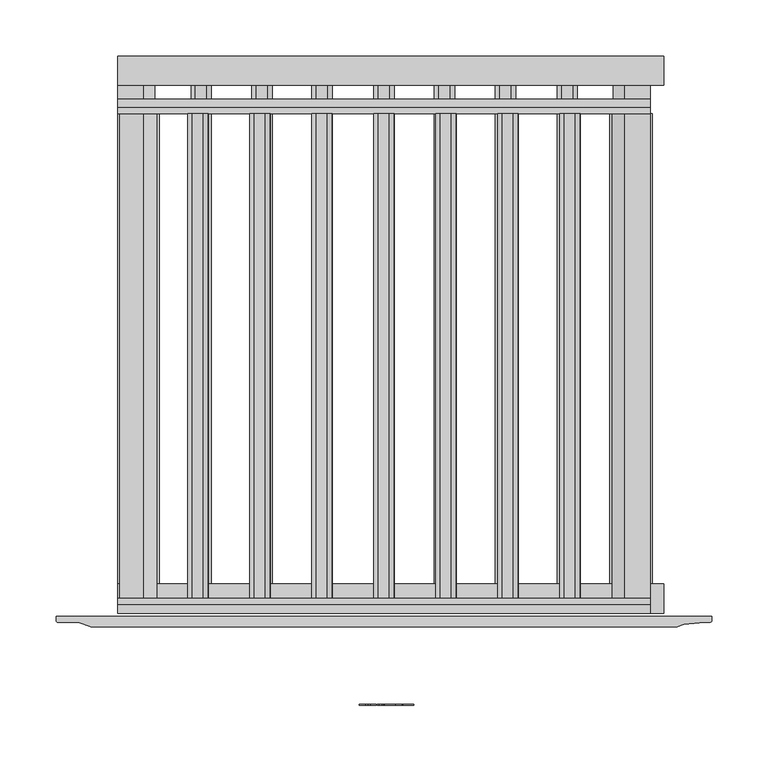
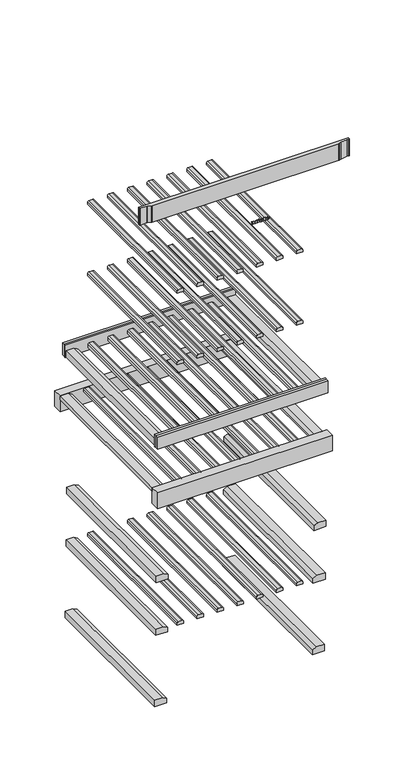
"""IFC4 building model written with IfcOpenShell, lengths in millimetres: proxy geometry, 12581040_CN_KWTS4785F_OBSW : 39478562_CN_12581040_KWTS4785F_OBSW."""

from ifc_helpers import new_model, si_unit, point, frame, frame_2d, origin, place, context, project, spatial, polyline, circle_curve, ellipse_curve, trimmed, segment, composite_curve, outline, extrude, source, transform, mapped, element, save
from ifc_brep_helpers import plane_surface, cylinder_surface, revolved_surface, extruded_surface, advanced_brep


def specialty_equipment_05008fe5(model_context):
    return source(origin(), model_context, "Body", "SolidModel", [
        advanced_brep(
        [(21.288016, -694.5, 1754.896), (21.288016, -694.5, 1755.704), (26.640016, -694.5, 1755.704), (17.328016, -694.5, 1755.704), (19.528016, -694.5, 1753.0), (26.504016, -694.5, 1754.896), (24.088016, -694.5, 1754.896), (22.184016, -694.5, 1754.0), (21.288016, -694.5, 1756.728), (21.288016, -694.5, 1757.6), (22.656016, -694.5, 1757.6), (22.656016, -694.5, 1756.728), (21.288016, -693.5, 1754.896), (22.184016, -693.5, 1754.0), (24.088016, -693.5, 1754.896), (26.504016, -693.5, 1754.896), (19.528016, -693.5, 1753.0), (17.328016, -693.5, 1755.704), (26.640016, -693.5, 1755.704), (21.288016, -693.5, 1755.704), (21.288016, -693.5, 1756.728), (22.656016, -693.5, 1756.728), (22.656016, -693.5, 1757.6), (21.288016, -693.5, 1757.6)],
        [
            (0, 1),
            (1, 2),
            (2, 3, ellipse_curve(frame((21.984016, -694.5, 1755.704), z_axis=(0.0, -1.0, 0.0), x_axis=(-1.0, 0.0, 0.0)), 4.656, 3.848)),
            (3, 4, circle_curve(frame((20.4240596, -694.5, 1755.976), z_axis=(0.0, -1.0, 0.0), x_axis=(0.0, 0.0, -1.0)), 3.1079688)),
            (4, 5, circle_curve(frame((21.8908096, -694.5, 1758.088), z_axis=(0.0, -1.0, 0.0), x_axis=(0.0, 0.0, -1.0)), 5.6098607)),
            (5, 6),
            (6, 7, circle_curve(frame((22.5750748, -694.5, 1755.64), z_axis=(0.0, 1.0, 0.0), x_axis=(0.0, 0.0, -1.0)), 1.6859795)),
            (7, 0, circle_curve(frame((22.184016, -694.5, 1754.896), z_axis=(0.0, 1.0, 0.0), x_axis=(0.0, 0.0, -1.0)), 0.896)),
            (8, 9),
            (9, 10, circle_curve(frame((21.972016, -694.5, 1757.6), z_axis=(0.0, 1.0, 0.0), x_axis=(0.0, 0.0, -1.0)), 0.684)),
            (10, 11),
            (11, 8),
            (12, 13, circle_curve(frame((22.184016, -693.5, 1754.896), z_axis=(0.0, -1.0, 0.0), x_axis=(0.0, 0.0, -1.0)), 0.896)),
            (13, 14, circle_curve(frame((22.5750748, -693.5, 1755.64), z_axis=(0.0, -1.0, 0.0), x_axis=(0.0, 0.0, -1.0)), 1.6859795)),
            (14, 15),
            (15, 16, circle_curve(frame((21.8908096, -693.5, 1758.088), z_axis=(0.0, 1.0, 0.0), x_axis=(0.0, 0.0, -1.0)), 5.6098607)),
            (16, 17, circle_curve(frame((20.4240596, -693.5, 1755.976), z_axis=(0.0, 1.0, 0.0), x_axis=(0.0, 0.0, -1.0)), 3.1079688)),
            (17, 18, ellipse_curve(frame((21.984016, -693.5, 1755.704), z_axis=(0.0, 1.0, 0.0), x_axis=(-1.0, 0.0, 0.0)), 4.656, 3.848)),
            (18, 19),
            (19, 12),
            (20, 21),
            (21, 22),
            (22, 23, circle_curve(frame((21.972016, -693.5, 1757.6), z_axis=(0.0, -1.0, 0.0), x_axis=(0.0, 0.0, -1.0)), 0.684)),
            (23, 20),
            (0, 12),
            (19, 1),
            (18, 2),
            (5, 15),
            (14, 6),
            (17, 3),
            (13, 7),
            (16, 4),
            (8, 20),
            (23, 9),
            (22, 10),
            (21, 11),
        ],
        [
            plane_surface(frame((21.288016, -694.5, 1755.704), z_axis=(0.0, -1.0, 0.0), x_axis=(0.0, 0.0, 1.0))),
            plane_surface(frame((21.288016, -693.5, 1755.704), z_axis=(0.0, 1.0, 0.0), x_axis=(0.0, 0.0, -1.0))),
            plane_surface(frame((21.288016, -694.5, 1754.896), z_axis=(1.0, 0.0, 0.0), x_axis=(0.0, 1.0, 0.0))),
            plane_surface(frame((21.288016, -694.5, 1755.704), z_axis=(0.0, 0.0, -1.0), x_axis=(0.0, 1.0, 0.0))),
            plane_surface(frame((26.504016, -694.5, 1754.896), z_axis=(0.0, 0.0, 1.0), x_axis=(0.0, 1.0, 0.0))),
            extruded_surface(trimmed(ellipse_curve(frame((21.984016, -692.5, 1755.704), z_axis=(0.0, -1.0, 0.0), x_axis=(-1.0, 0.0, 0.0)), 4.656, 3.848), [point((26.640016, -692.5, 1755.704))], [point((17.328016, -692.5, 1755.704))], True, "CARTESIAN"), (0.0, -1.0, 0.0), 1.0),
            revolved_surface(polyline([(22.5750748, -693.5, 1753.9540205), (22.5750748, -694.5, 1753.9540205)]), (22.5750748, -693.5, 1755.64), (0.0, 1.0, 0.0)),
            revolved_surface(polyline([(22.184016, -693.5, 1754.0), (22.184016, -694.5, 1754.0)]), (22.184016, -693.5, 1754.896), (0.0, 1.0, 0.0)),
            cylinder_surface(frame((20.4240596, -693.5, 1755.976), z_axis=(0.0, -1.0, 0.0), x_axis=(0.0, 0.0, -1.0)), 3.1079688),
            cylinder_surface(frame((21.8908096, -693.5, 1758.088), z_axis=(0.0, -1.0, 0.0), x_axis=(0.0, 0.0, -1.0)), 5.6098607),
            plane_surface(frame((21.288016, -694.5, 1756.728), z_axis=(1.0, 0.0, 0.0), x_axis=(0.0, 1.0, 0.0))),
            revolved_surface(polyline([(21.972016, -693.5, 1756.916), (21.972016, -694.5, 1756.916)]), (21.972016, -693.5, 1757.6), (0.0, 1.0, 0.0)),
            plane_surface(frame((22.656016, -694.5, 1757.6), z_axis=(-1.0, 0.0, 0.0), x_axis=(0.0, 1.0, 0.0))),
            plane_surface(frame((22.656016, -694.5, 1756.728), z_axis=(0.0, 0.0, 1.0), x_axis=(0.0, 1.0, 0.0))),
        ],
        [
            (0, [[1, 2, 3, 4, 5, 6, 7, 8], [9, 10, 11, 12]]),
            (1, [[13, 14, 15, 16, 17, 18, 19, 20], [21, 22, 23, 24]]),
            (2, [[-1, 25, -20, 26]]),
            (3, [[-2, -26, -19, 27]]),
            (4, [[-6, 28, -15, 29]]),
            (5, [[-3, -27, -18, 30]]),
            (6, [[-7, -29, -14, 31]]),
            (7, [[-8, -31, -13, -25]]),
            (8, [[-4, -30, -17, 32]]),
            (9, [[-5, -32, -16, -28]]),
            (10, [[-9, 33, -24, 34]]),
            (11, [[-10, -34, -23, 35]]),
            (12, [[-11, -35, -22, 36]]),
            (13, [[-12, -36, -21, -33]]),
        ],
    ),
        advanced_brep(
        [(4.592016, -694.5, 1754.896), (4.592016, -694.5, 1755.704), (9.944016, -694.5, 1755.704), (0.632016, -694.5, 1755.704), (2.832016, -694.5, 1753.0), (9.808016, -694.5, 1754.896), (7.392016, -694.5, 1754.896), (5.488016, -694.5, 1754.0), (4.592016, -694.5, 1756.728), (4.592016, -694.5, 1757.6), (5.960016, -694.5, 1757.6), (5.960016, -694.5, 1756.728), (4.592016, -693.5, 1754.896), (5.488016, -693.5, 1754.0), (7.392016, -693.5, 1754.896), (9.808016, -693.5, 1754.896), (2.832016, -693.5, 1753.0), (0.632016, -693.5, 1755.704), (9.944016, -693.5, 1755.704), (4.592016, -693.5, 1755.704), (4.592016, -693.5, 1756.728), (5.960016, -693.5, 1756.728), (5.960016, -693.5, 1757.6), (4.592016, -693.5, 1757.6)],
        [
            (0, 1),
            (1, 2),
            (2, 3, ellipse_curve(frame((5.288016, -694.5, 1755.704), z_axis=(0.0, -1.0, 0.0), x_axis=(-1.0, 0.0, 0.0)), 4.656, 3.848)),
            (3, 4, circle_curve(frame((3.7280596, -694.5, 1755.976), z_axis=(0.0, -1.0, 0.0), x_axis=(0.0, 0.0, -1.0)), 3.1079688)),
            (4, 5, circle_curve(frame((5.1948096, -694.5, 1758.088), z_axis=(0.0, -1.0, 0.0), x_axis=(0.0, 0.0, -1.0)), 5.6098607)),
            (5, 6),
            (6, 7, circle_curve(frame((5.8790748, -694.5, 1755.64), z_axis=(0.0, 1.0, 0.0), x_axis=(0.0, 0.0, -1.0)), 1.6859795)),
            (7, 0, circle_curve(frame((5.488016, -694.5, 1754.896), z_axis=(0.0, 1.0, 0.0), x_axis=(0.0, 0.0, -1.0)), 0.896)),
            (8, 9),
            (9, 10, circle_curve(frame((5.276016, -694.5, 1757.6), z_axis=(0.0, 1.0, 0.0), x_axis=(0.0, 0.0, -1.0)), 0.684)),
            (10, 11),
            (11, 8),
            (12, 13, circle_curve(frame((5.488016, -693.5, 1754.896), z_axis=(0.0, -1.0, 0.0), x_axis=(0.0, 0.0, -1.0)), 0.896)),
            (13, 14, circle_curve(frame((5.8790748, -693.5, 1755.64), z_axis=(0.0, -1.0, 0.0), x_axis=(0.0, 0.0, -1.0)), 1.6859795)),
            (14, 15),
            (15, 16, circle_curve(frame((5.1948096, -693.5, 1758.088), z_axis=(0.0, 1.0, 0.0), x_axis=(0.0, 0.0, -1.0)), 5.6098607)),
            (16, 17, circle_curve(frame((3.7280596, -693.5, 1755.976), z_axis=(0.0, 1.0, 0.0), x_axis=(0.0, 0.0, -1.0)), 3.1079688)),
            (17, 18, ellipse_curve(frame((5.288016, -693.5, 1755.704), z_axis=(0.0, 1.0, 0.0), x_axis=(-1.0, 0.0, 0.0)), 4.656, 3.848)),
            (18, 19),
            (19, 12),
            (20, 21),
            (21, 22),
            (22, 23, circle_curve(frame((5.276016, -693.5, 1757.6), z_axis=(0.0, -1.0, 0.0), x_axis=(0.0, 0.0, -1.0)), 0.684)),
            (23, 20),
            (0, 12),
            (19, 1),
            (18, 2),
            (5, 15),
            (14, 6),
            (17, 3),
            (13, 7),
            (16, 4),
            (8, 20),
            (23, 9),
            (22, 10),
            (21, 11),
        ],
        [
            plane_surface(frame((4.592016, -694.5, 1755.704), z_axis=(0.0, -1.0, 0.0), x_axis=(0.0, 0.0, 1.0))),
            plane_surface(frame((4.592016, -693.5, 1755.704), z_axis=(0.0, 1.0, 0.0), x_axis=(0.0, 0.0, -1.0))),
            plane_surface(frame((4.592016, -694.5, 1754.896), z_axis=(1.0, 0.0, 0.0), x_axis=(0.0, 1.0, 0.0))),
            plane_surface(frame((4.592016, -694.5, 1755.704), z_axis=(0.0, 0.0, -1.0), x_axis=(0.0, 1.0, 0.0))),
            plane_surface(frame((9.808016, -694.5, 1754.896), z_axis=(0.0, 0.0, 1.0), x_axis=(0.0, 1.0, 0.0))),
            extruded_surface(trimmed(ellipse_curve(frame((5.288016, -692.5, 1755.704), z_axis=(0.0, -1.0, 0.0), x_axis=(-1.0, 0.0, 0.0)), 4.656, 3.848), [point((9.944016, -692.5, 1755.704))], [point((0.632016, -692.5, 1755.704))], True, "CARTESIAN"), (0.0, -1.0, 0.0), 1.0),
            revolved_surface(polyline([(5.8790748, -693.5, 1753.9540205), (5.8790748, -694.5, 1753.9540205)]), (5.8790748, -693.5, 1755.64), (0.0, 1.0, 0.0)),
            revolved_surface(polyline([(5.488016, -693.5, 1754.0), (5.488016, -694.5, 1754.0)]), (5.488016, -693.5, 1754.896), (0.0, 1.0, 0.0)),
            cylinder_surface(frame((3.7280596, -693.5, 1755.976), z_axis=(0.0, -1.0, 0.0), x_axis=(0.0, 0.0, -1.0)), 3.1079688),
            cylinder_surface(frame((5.1948096, -693.5, 1758.088), z_axis=(0.0, -1.0, 0.0), x_axis=(0.0, 0.0, -1.0)), 5.6098607),
            plane_surface(frame((4.592016, -694.5, 1756.728), z_axis=(1.0, 0.0, 0.0), x_axis=(0.0, 1.0, 0.0))),
            revolved_surface(polyline([(5.276016, -693.5, 1756.916), (5.276016, -694.5, 1756.916)]), (5.276016, -693.5, 1757.6), (0.0, 1.0, 0.0)),
            plane_surface(frame((5.960016, -694.5, 1757.6), z_axis=(-1.0, 0.0, 0.0), x_axis=(0.0, 1.0, 0.0))),
            plane_surface(frame((5.960016, -694.5, 1756.728), z_axis=(0.0, 0.0, 1.0), x_axis=(0.0, 1.0, 0.0))),
        ],
        [
            (0, [[1, 2, 3, 4, 5, 6, 7, 8], [9, 10, 11, 12]]),
            (1, [[13, 14, 15, 16, 17, 18, 19, 20], [21, 22, 23, 24]]),
            (2, [[-1, 25, -20, 26]]),
            (3, [[-2, -26, -19, 27]]),
            (4, [[-6, 28, -15, 29]]),
            (5, [[-3, -27, -18, 30]]),
            (6, [[-7, -29, -14, 31]]),
            (7, [[-8, -31, -13, -25]]),
            (8, [[-4, -30, -17, 32]]),
            (9, [[-5, -32, -16, -28]]),
            (10, [[-9, 33, -24, 34]]),
            (11, [[-10, -34, -23, 35]]),
            (12, [[-11, -35, -22, 36]]),
            (13, [[-12, -36, -21, -33]]),
        ],
    ),
        extrude(outline(polyline([(1760.528, -4.151984), (1759.232, -3.543984), (1760.496, -0.831984), (1761.792, -1.431984), (1760.528, -4.151984)])), frame((0.0, -694.5, 0.0), z_axis=(0.0, 1.0, 0.0), x_axis=(0.0, 0.0, 1.0)), (0.0, 0.0, 1.0), 1.0),
        extrude(outline(polyline([(1759.056, -6.127984), (1757.624, -6.127984), (1757.624, -5.175984), (1754.344, -5.175984), (1754.344, -6.127984), (1753.0, -6.127984), (1753.0, 0.184016), (1754.344, 0.184016), (1754.344, -0.743984), (1759.056, -0.743984), (1759.056, -6.127984)])), frame((0.0, -694.5, 0.0), z_axis=(0.0, 1.0, 0.0), x_axis=(0.0, 0.0, 1.0)), (0.0, 0.0, 1.0), 1.0),
        extrude(outline(polyline([(1759.696, 10.392016), (1759.696, 11.352016), (1754.344, 11.352016), (1754.344, 10.392016), (1753.0, 10.392016), (1753.0, 16.880016), (1754.344, 16.880016), (1754.344, 15.896016), (1761.0, 15.896016), (1761.0, 10.392016), (1759.696, 10.392016)])), frame((0.0, -694.5, 0.0), z_axis=(0.0, 1.0, 0.0), x_axis=(0.0, 0.0, 1.0)), (0.0, 0.0, 1.0), 1.0),
        extrude(outline(polyline([(1759.696, -22.071984), (1759.696, -21.103984), (1754.344, -21.103984), (1754.344, -22.071984), (1753.0, -22.071984), (1753.0, -18.551984), (1754.344, -18.551984), (1754.344, -19.511984), (1757.7471247, -19.511984), (1753.0, -15.935984), (1757.8152223, -12.343984), (1754.344, -12.343984), (1754.344, -13.327984), (1753.0, -13.327984), (1753.0, -6.943984), (1754.344, -6.943984), (1754.344, -7.959984), (1759.696, -7.959984), (1759.696, -6.943984), (1761.0, -6.943984), (1761.0, -11.815984), (1758.0, -14.151984), (1761.0, -16.495984), (1761.0, -22.071984), (1759.696, -22.071984)])), frame((0.0, -694.5, 0.0), z_axis=(0.0, 1.0, 0.0), x_axis=(0.0, 0.0, 1.0)), (0.0, 0.0, 1.0), 1.0),
        extrude(outline(composite_curve([segment(polyline([(260.3303025, -624.4869385), (-260.3238209, -624.4869385)]), True, "CONTINUOUS"), segment(trimmed(circle_curve(frame_2d((-260.44591, -618.5630875)), 5.9251089), [point((-260.3238209, -624.4869385))], [point((-262.4708007, -624.1314566))], False, "CARTESIAN"), True, "CONTINUOUS"), segment(polyline([(-262.4708007, -624.1314566), (-271.5667859, -620.8237776)]), True, "CONTINUOUS"), segment(trimmed(circle_curve(frame_2d((-273.2756141, -625.5229876)), 5.0002667), [point((-271.5667859, -620.8237776))], [point((-273.2756141, -620.5227208))], True, "CARTESIAN"), True, "CONTINUOUS"), segment(polyline([(-273.2756141, -620.5227208), (-290.5040257, -620.5227208)]), True, "CONTINUOUS"), segment(trimmed(circle_curve(frame_2d((-290.5040257, -618.5174705)), 2.0052503), [point((-290.5040257, -620.5227208))], [point((-292.509276, -618.5174705))], False, "CARTESIAN"), True, "CONTINUOUS"), segment(polyline([(-292.509276, -618.5174705), (-292.509276, -615.0), (292.509276, -615.0), (292.509276, -618.5756553)]), True, "CONTINUOUS"), segment(trimmed(circle_curve(frame_2d((290.5363621, -618.5756553)), 1.9729139), [point((292.509276, -618.5756553))], [point((290.3912088, -620.5432223))], False, "CARTESIAN"), True, "CONTINUOUS"), segment(polyline([(290.3912088, -620.5432223), (285.9802856, -620.2942743), (267.1795756, -622.380628), (262.3907072, -624.1236335)]), True, "CONTINUOUS"), segment(trimmed(circle_curve(frame_2d((260.3303025, -618.4627182)), 6.0242203), [point((262.3907072, -624.1236335))], [point((260.3303025, -624.4869385))], False, "CARTESIAN"), True, "CONTINUOUS")], self_intersect=False)), frame((0.0, 0.0, 1800.9923609), z_axis=(0.0, 0.0, 1.0), x_axis=(1.0, 0.0, 0.0)), (0.0, 0.0, 1.0), 49.0076391),
        extrude(outline(polyline([(1117.0, -202.5), (1130.0899519, -202.5), (1136.0, -214.5350037), (1136.0, -235.5500031), (1117.0, -235.5500031), (1117.0, -202.5)])), frame((0.0, -598.7655853, 0.0), z_axis=(0.0, 1.0, 0.0), x_axis=(0.0, 0.0, 1.0)), (0.0, 0.0, 1.0), 432.2655853),
        extrude(outline(polyline([(1136.0, 237.5), (1136.0, 214.5350037), (1130.5467075, 203.4301201), (1117.0, 203.4301201), (1117.0, 237.5), (1136.0, 237.5)])), frame((0.0, -598.7655853, 0.0), z_axis=(0.0, 1.0, 0.0), x_axis=(0.0, 0.0, 1.0)), (0.0, 0.0, 1.0), 432.2655853),
        extrude(outline(polyline([(714.9318744, -200.5500031), (728.0218263, -200.5500031), (733.9318744, -212.5850067), (733.9318744, -233.6000061), (714.9318744, -233.6000061), (714.9318744, -200.5500031)])), frame((0.0, -598.7655853, 0.0), z_axis=(0.0, 1.0, 0.0), x_axis=(0.0, 0.0, 1.0)), (0.0, 0.0, 1.0), 432.2655853),
        extrude(outline(polyline([(733.9318744, 239.4499969), (733.9318744, 216.4850006), (728.4785819, 205.380117), (714.9318744, 205.380117), (714.9318744, 239.4499969), (733.9318744, 239.4499969)])), frame((0.0, -598.7655853, 0.0), z_axis=(0.0, 1.0, 0.0), x_axis=(0.0, 0.0, 1.0)), (0.0, 0.0, 1.0), 432.2655853),
        extrude(outline(polyline([(351.0, -204.4499969), (364.0899519, -204.4499969), (370.0, -216.4850006), (370.0, -237.5), (351.0, -237.5), (351.0, -204.4499969)])), frame((0.0, -598.7655853, 0.0), z_axis=(0.0, 1.0, 0.0), x_axis=(0.0, 0.0, 1.0)), (0.0, 0.0, 1.0), 432.2655853),
        extrude(outline(polyline([(370.0, 235.5500031), (370.0, 212.5850067), (364.5467075, 201.4801231), (351.0, 201.4801231), (351.0, 235.5500031), (370.0, 235.5500031)])), frame((0.0, -598.7655853, 0.0), z_axis=(0.0, 1.0, 0.0), x_axis=(0.0, 0.0, 1.0)), (0.0, 0.0, 1.0), 432.2655853),
        extrude(outline(polyline([(560.4, -202.5), (573.4899519, -202.5), (579.4, -214.5350037), (579.4, -235.5500031), (560.4, -235.5500031), (560.4, -202.5)])), frame((0.0, -598.7655853, 0.0), z_axis=(0.0, 1.0, 0.0), x_axis=(0.0, 0.0, 1.0)), (0.0, 0.0, 1.0), 432.2655853),
        extrude(outline(polyline([(579.4, 237.5), (579.4, 214.5350037), (573.9467075, 203.4301201), (560.4, 203.4301201), (560.4, 237.5), (579.4, 237.5)])), frame((0.0, -598.7655853, 0.0), z_axis=(0.0, 1.0, 0.0), x_axis=(0.0, 0.0, 1.0)), (0.0, 0.0, 1.0), 432.2655853),
        extrude(outline(polyline([(977.7, -204.4499969), (982.74754, -204.4499969), (987.7, -214.5350037), (987.7, -237.5), (977.7, -237.5), (977.7, -204.4499969)])), frame((0.0, -586.2051392, 0.0), z_axis=(0.0, 1.0, 0.0), x_axis=(0.0, 0.0, 1.0)), (0.0, 0.0, 1.0), 445.2345979),
        extrude(outline(polyline([(987.7, 237.5), (987.7, 214.5350037), (982.74754, 204.4499969), (977.7, 204.4499969), (977.7, 237.5), (987.7, 237.5)])), frame((0.0, -586.2051392, 0.0), z_axis=(0.0, 1.0, 0.0), x_axis=(0.0, 0.0, 1.0)), (0.0, 0.0, 1.0), 445.2345979),
        extrude(outline(polyline([(249.6000061, -140.9705413), (-237.5, -140.9705413), (-237.5, -115.0407551), (249.6000061, -115.0407551), (249.6000061, -140.9705413)])), frame((0.0, 0.0, 942.2), z_axis=(0.0, 0.0, 1.0), x_axis=(1.0, 0.0, 0.0)), (0.0, 0.0, 1.0), 46.5),
        extrude(outline(polyline([(249.6000061, -612.1349254), (-237.5, -612.1349254), (-237.5, -586.2051392), (249.6000061, -586.2051392), (249.6000061, -612.1349254)])), frame((0.0, 0.0, 942.2), z_axis=(0.0, 0.0, 1.0), x_axis=(1.0, 0.0, 0.0)), (0.0, 0.0, 1.0), 46.5),
        extrude(outline(composite_curve([segment(polyline([(983.7, -172.1444916), (977.7, -172.1444916), (977.7, -154.1444916), (983.7, -154.1444916)]), True, "CONTINUOUS"), segment(trimmed(circle_curve(frame_2d((983.7, -158.1444916)), 4.0), [point((983.7, -154.1444916))], [point((987.7, -158.1444916))], False, "CARTESIAN"), True, "CONTINUOUS"), segment(polyline([(987.7, -158.1444916), (987.7, -168.1444916)]), True, "CONTINUOUS"), segment(trimmed(circle_curve(frame_2d((983.7, -168.1444916)), 4.0), [point((987.7, -168.1444916))], [point((983.7, -172.1444916))], False, "CARTESIAN"), True, "CONTINUOUS")], self_intersect=False)), frame((0.0, -586.2051392, 0.0), z_axis=(0.0, 1.0, 0.0), x_axis=(0.0, 0.0, 1.0)), (0.0, 0.0, 1.0), 445.2345979),
        extrude(outline(composite_curve([segment(polyline([(983.7, -117.8681793), (977.7, -117.8681793), (977.7, -99.8681793), (983.7, -99.8681793)]), True, "CONTINUOUS"), segment(trimmed(circle_curve(frame_2d((983.7, -103.8681793)), 4.0), [point((983.7, -99.8681793))], [point((987.7, -103.8681793))], False, "CARTESIAN"), True, "CONTINUOUS"), segment(polyline([(987.7, -103.8681793), (987.7, -113.8681793)]), True, "CONTINUOUS"), segment(trimmed(circle_curve(frame_2d((983.7, -113.8681793)), 4.0), [point((987.7, -113.8681793))], [point((983.7, -117.8681793))], False, "CARTESIAN"), True, "CONTINUOUS")], self_intersect=False)), frame((0.0, -586.2051392, 0.0), z_axis=(0.0, 1.0, 0.0), x_axis=(0.0, 0.0, 1.0)), (0.0, 0.0, 1.0), 445.2345979),
        extrude(outline(composite_curve([segment(polyline([(983.7, -64.2999973), (977.7, -64.2999973), (977.7, -46.2999973), (983.7, -46.2999973)]), True, "CONTINUOUS"), segment(trimmed(circle_curve(frame_2d((983.7, -50.2999973)), 4.0), [point((983.7, -46.2999973))], [point((987.7, -50.2999973))], False, "CARTESIAN"), True, "CONTINUOUS"), segment(polyline([(987.7, -50.2999973), (987.7, -60.2999973)]), True, "CONTINUOUS"), segment(trimmed(circle_curve(frame_2d((983.7, -60.2999973)), 4.0), [point((987.7, -60.2999973))], [point((983.7, -64.2999973))], False, "CARTESIAN"), True, "CONTINUOUS")], self_intersect=False)), frame((0.0, -586.2051392, 0.0), z_axis=(0.0, 1.0, 0.0), x_axis=(0.0, 0.0, 1.0)), (0.0, 0.0, 1.0), 445.2345979),
        extrude(outline(composite_curve([segment(trimmed(circle_curve(frame_2d((983.7, 5.0)), 4.0), [point((983.7, 9.0))], [point((987.7, 5.0))], False, "CARTESIAN"), True, "CONTINUOUS"), segment(polyline([(987.7, 5.0), (987.7, -5.0)]), True, "CONTINUOUS"), segment(trimmed(circle_curve(frame_2d((983.7, -5.0)), 4.0), [point((987.7, -5.0))], [point((983.7, -9.0))], False, "CARTESIAN"), True, "CONTINUOUS"), segment(polyline([(983.7, -9.0), (977.7, -9.0), (977.7, 9.0), (983.7, 9.0)]), True, "CONTINUOUS")], self_intersect=False)), frame((0.0, -586.2051392, 0.0), z_axis=(0.0, 1.0, 0.0), x_axis=(0.0, 0.0, 1.0)), (0.0, 0.0, 1.0), 445.2345979),
        extrude(outline(composite_curve([segment(trimmed(circle_curve(frame_2d((983.7, 168.588089)), 4.0), [point((983.7, 172.588089))], [point((987.7, 168.588089))], False, "CARTESIAN"), True, "CONTINUOUS"), segment(polyline([(987.7, 168.588089), (987.7, 158.588089)]), True, "CONTINUOUS"), segment(trimmed(circle_curve(frame_2d((983.7, 158.588089)), 4.0), [point((987.7, 158.588089))], [point((983.7, 154.588089))], False, "CARTESIAN"), True, "CONTINUOUS"), segment(polyline([(983.7, 154.588089), (977.7, 154.588089), (977.7, 172.588089), (983.7, 172.588089)]), True, "CONTINUOUS")], self_intersect=False)), frame((0.0, -586.2051392, 0.0), z_axis=(0.0, 1.0, 0.0), x_axis=(0.0, 0.0, 1.0)), (0.0, 0.0, 1.0), 445.2345979),
        extrude(outline(composite_curve([segment(polyline([(983.7, 44.8889732), (977.7, 44.8889732), (977.7, 62.8889732), (983.7, 62.8889732)]), True, "CONTINUOUS"), segment(trimmed(circle_curve(frame_2d((983.7, 58.8889732)), 4.0), [point((983.7, 62.8889732))], [point((987.7, 58.8889732))], False, "CARTESIAN"), True, "CONTINUOUS"), segment(polyline([(987.7, 58.8889732), (987.7, 48.8889732)]), True, "CONTINUOUS"), segment(trimmed(circle_curve(frame_2d((983.7, 48.8889732)), 4.0), [point((987.7, 48.8889732))], [point((983.7, 44.8889732))], False, "CARTESIAN"), True, "CONTINUOUS")], self_intersect=False)), frame((0.0, -586.2051392, 0.0), z_axis=(0.0, 1.0, 0.0), x_axis=(0.0, 0.0, 1.0)), (0.0, 0.0, 1.0), 445.2345979),
        extrude(outline(composite_curve([segment(trimmed(circle_curve(frame_2d((983.7, 113.4003448)), 4.0), [point((983.7, 117.4003448))], [point((987.7, 113.4003448))], False, "CARTESIAN"), True, "CONTINUOUS"), segment(polyline([(987.7, 113.4003448), (987.7, 103.4003448)]), True, "CONTINUOUS"), segment(trimmed(circle_curve(frame_2d((983.7, 103.4003448)), 4.0), [point((987.7, 103.4003448))], [point((983.7, 99.4003448))], False, "CARTESIAN"), True, "CONTINUOUS"), segment(polyline([(983.7, 99.4003448), (977.7, 99.4003448), (977.7, 117.4003448), (983.7, 117.4003448)]), True, "CONTINUOUS")], self_intersect=False)), frame((0.0, -586.2051392, 0.0), z_axis=(0.0, 1.0, 0.0), x_axis=(0.0, 0.0, 1.0)), (0.0, 0.0, 1.0), 445.2345979),
        extrude(outline(polyline([(237.5, -612.1349254), (-237.5, -612.1349254), (-237.5, -604.7655853), (237.5, -604.7655853), (237.5, -612.1349254)])), frame((0.0, 0.0, 1117.0), z_axis=(0.0, 0.0, 1.0), x_axis=(1.0, 0.0, 0.0)), (0.0, 0.0, 1.0), 36.2681256),
        extrude(outline(polyline([(237.5, -160.5), (-237.5, -160.5), (-237.5, -153.5), (237.5, -153.5), (237.5, -160.5)])), frame((0.0, 0.0, 1117.0), z_axis=(0.0, 0.0, 1.0), x_axis=(1.0, 0.0, 0.0)), (0.0, 0.0, 1.0), 35.7681256),
        extrude(outline(polyline([(237.5, -166.5), (-237.5, -166.5), (-237.5, -160.5), (237.5, -160.5), (237.5, -166.5)])), frame((0.0, 0.0, 1117.0), z_axis=(0.0, 0.0, 1.0), x_axis=(1.0, 0.0, 0.0)), (0.0, 0.0, 1.0), 36.2681256),
        extrude(outline(polyline([(237.5, -604.7655853), (-237.5, -604.7655853), (-237.5, -598.7655853), (237.5, -598.7655853), (237.5, -604.7655853)])), frame((0.0, 0.0, 1117.0), z_axis=(0.0, 0.0, 1.0), x_axis=(1.0, 0.0, 0.0)), (0.0, 0.0, 1.0), 36.2681256),
        extrude(outline(composite_curve([segment(polyline([(1552.0, -175.0), (1546.0, -175.0), (1546.0, -157.0), (1552.0, -157.0)]), True, "CONTINUOUS"), segment(trimmed(circle_curve(frame_2d((1552.0, -161.0)), 4.0), [point((1552.0, -157.0))], [point((1556.0, -161.0))], False, "CARTESIAN"), True, "CONTINUOUS"), segment(polyline([(1556.0, -161.0), (1556.0, -171.0)]), True, "CONTINUOUS"), segment(trimmed(circle_curve(frame_2d((1552.0, -171.0)), 4.0), [point((1556.0, -171.0))], [point((1552.0, -175.0))], False, "CARTESIAN"), True, "CONTINUOUS")], self_intersect=False)), frame((0.0, -598.7655853, 0.0), z_axis=(0.0, 1.0, 0.0), x_axis=(0.0, 0.0, 1.0)), (0.0, 0.0, 1.0), 432.2655853),
        extrude(outline(composite_curve([segment(trimmed(circle_curve(frame_2d((1552.0, 4.8999939)), 4.0), [point((1552.0, 8.8999939))], [point((1556.0, 4.8999939))], False, "CARTESIAN"), True, "CONTINUOUS"), segment(polyline([(1556.0, 4.8999939), (1556.0, -5.1000061)]), True, "CONTINUOUS"), segment(trimmed(circle_curve(frame_2d((1552.0, -5.1000061)), 4.0), [point((1556.0, -5.1000061))], [point((1552.0, -9.1000061))], False, "CARTESIAN"), True, "CONTINUOUS"), segment(polyline([(1552.0, -9.1000061), (1546.0, -9.1000061), (1546.0, 8.8999939), (1552.0, 8.8999939)]), True, "CONTINUOUS")], self_intersect=False)), frame((0.0, -598.7655853, 0.0), z_axis=(0.0, 1.0, 0.0), x_axis=(0.0, 0.0, 1.0)), (0.0, 0.0, 1.0), 432.2655853),
        extrude(outline(composite_curve([segment(trimmed(circle_curve(frame_2d((1552.0, 60.1999969)), 4.0), [point((1552.0, 64.1999969))], [point((1556.0, 60.1999969))], False, "CARTESIAN"), True, "CONTINUOUS"), segment(polyline([(1556.0, 60.1999969), (1556.0, 50.1999969)]), True, "CONTINUOUS"), segment(trimmed(circle_curve(frame_2d((1552.0, 50.1999969)), 4.0), [point((1556.0, 50.1999969))], [point((1552.0, 46.1999969))], False, "CARTESIAN"), True, "CONTINUOUS"), segment(polyline([(1552.0, 46.1999969), (1546.0, 46.1999969), (1546.0, 64.1999969), (1552.0, 64.1999969)]), True, "CONTINUOUS")], self_intersect=False)), frame((0.0, -598.7655853, 0.0), z_axis=(0.0, 1.0, 0.0), x_axis=(0.0, 0.0, 1.0)), (0.0, 0.0, 1.0), 432.2655853),
        extrude(outline(composite_curve([segment(trimmed(circle_curve(frame_2d((1552.0, -105.7000122)), 4.0), [point((1552.0, -101.7000122))], [point((1556.0, -105.7000122))], False, "CARTESIAN"), True, "CONTINUOUS"), segment(polyline([(1556.0, -105.7000122), (1556.0, -115.7000122)]), True, "CONTINUOUS"), segment(trimmed(circle_curve(frame_2d((1552.0, -115.7000122)), 4.0), [point((1556.0, -115.7000122))], [point((1552.0, -119.7000122))], False, "CARTESIAN"), True, "CONTINUOUS"), segment(polyline([(1552.0, -119.7000122), (1546.0, -119.7000122), (1546.0, -101.7000122), (1552.0, -101.7000122)]), True, "CONTINUOUS")], self_intersect=False)), frame((0.0, -598.7655853, 0.0), z_axis=(0.0, 1.0, 0.0), x_axis=(0.0, 0.0, 1.0)), (0.0, 0.0, 1.0), 432.2655853),
        extrude(outline(composite_curve([segment(polyline([(1552.0, -64.4000053), (1546.0, -64.4000053), (1546.0, -46.4000053), (1552.0, -46.4000053)]), True, "CONTINUOUS"), segment(trimmed(circle_curve(frame_2d((1552.0, -50.4000053)), 4.0), [point((1552.0, -46.4000053))], [point((1556.0, -50.4000053))], False, "CARTESIAN"), True, "CONTINUOUS"), segment(polyline([(1556.0, -50.4000053), (1556.0, -60.4000053)]), True, "CONTINUOUS"), segment(trimmed(circle_curve(frame_2d((1552.0, -60.4000053)), 4.0), [point((1556.0, -60.4000053))], [point((1552.0, -64.4000053))], False, "CARTESIAN"), True, "CONTINUOUS")], self_intersect=False)), frame((0.0, -598.7655853, 0.0), z_axis=(0.0, 1.0, 0.0), x_axis=(0.0, 0.0, 1.0)), (0.0, 0.0, 1.0), 432.2655853),
        extrude(outline(composite_curve([segment(trimmed(circle_curve(frame_2d((1552.0, 170.7999878)), 4.0), [point((1552.0, 174.7999878))], [point((1556.0, 170.7999878))], False, "CARTESIAN"), True, "CONTINUOUS"), segment(polyline([(1556.0, 170.7999878), (1556.0, 160.7999878)]), True, "CONTINUOUS"), segment(trimmed(circle_curve(frame_2d((1552.0, 160.7999878)), 4.0), [point((1556.0, 160.7999878))], [point((1552.0, 156.7999878))], False, "CARTESIAN"), True, "CONTINUOUS"), segment(polyline([(1552.0, 156.7999878), (1546.0, 156.7999878), (1546.0, 174.7999878), (1552.0, 174.7999878)]), True, "CONTINUOUS")], self_intersect=False)), frame((0.0, -598.7655853, 0.0), z_axis=(0.0, 1.0, 0.0), x_axis=(0.0, 0.0, 1.0)), (0.0, 0.0, 1.0), 432.2655853),
        extrude(outline(composite_curve([segment(trimmed(circle_curve(frame_2d((1552.0, 115.4999924)), 4.0), [point((1552.0, 119.4999924))], [point((1556.0, 115.4999924))], False, "CARTESIAN"), True, "CONTINUOUS"), segment(polyline([(1556.0, 115.4999924), (1556.0, 105.4999924)]), True, "CONTINUOUS"), segment(trimmed(circle_curve(frame_2d((1552.0, 105.4999924)), 4.0), [point((1556.0, 105.4999924))], [point((1552.0, 101.4999924))], False, "CARTESIAN"), True, "CONTINUOUS"), segment(polyline([(1552.0, 101.4999924), (1546.0, 101.4999924), (1546.0, 119.4999924), (1552.0, 119.4999924)]), True, "CONTINUOUS")], self_intersect=False)), frame((0.0, -598.7655853, 0.0), z_axis=(0.0, 1.0, 0.0), x_axis=(0.0, 0.0, 1.0)), (0.0, 0.0, 1.0), 432.2655853),
        extrude(outline(composite_curve([segment(polyline([(1342.0, -174.8999939), (1336.0, -174.8999939), (1336.0, -156.8999939), (1342.0, -156.8999939)]), True, "CONTINUOUS"), segment(trimmed(circle_curve(frame_2d((1342.0, -160.8999939)), 4.0), [point((1342.0, -156.8999939))], [point((1346.0, -160.8999939))], False, "CARTESIAN"), True, "CONTINUOUS"), segment(polyline([(1346.0, -160.8999939), (1346.0, -170.8999939)]), True, "CONTINUOUS"), segment(trimmed(circle_curve(frame_2d((1342.0, -170.8999939)), 4.0), [point((1346.0, -170.8999939))], [point((1342.0, -174.8999939))], False, "CARTESIAN"), True, "CONTINUOUS")], self_intersect=False)), frame((0.0, -598.7655853, 0.0), z_axis=(0.0, 1.0, 0.0), x_axis=(0.0, 0.0, 1.0)), (0.0, 0.0, 1.0), 432.2655853),
        extrude(outline(composite_curve([segment(trimmed(circle_curve(frame_2d((1342.0, 5.0)), 4.0), [point((1342.0, 9.0))], [point((1346.0, 5.0))], False, "CARTESIAN"), True, "CONTINUOUS"), segment(polyline([(1346.0, 5.0), (1346.0, -5.0)]), True, "CONTINUOUS"), segment(trimmed(circle_curve(frame_2d((1342.0, -5.0)), 4.0), [point((1346.0, -5.0))], [point((1342.0, -9.0))], False, "CARTESIAN"), True, "CONTINUOUS"), segment(polyline([(1342.0, -9.0), (1336.0, -9.0), (1336.0, 9.0), (1342.0, 9.0)]), True, "CONTINUOUS")], self_intersect=False)), frame((0.0, -598.7655853, 0.0), z_axis=(0.0, 1.0, 0.0), x_axis=(0.0, 0.0, 1.0)), (0.0, 0.0, 1.0), 432.2655853),
        extrude(outline(composite_curve([segment(trimmed(circle_curve(frame_2d((1342.0, 60.3000031)), 4.0), [point((1342.0, 64.3000031))], [point((1346.0, 60.3000031))], False, "CARTESIAN"), True, "CONTINUOUS"), segment(polyline([(1346.0, 60.3000031), (1346.0, 50.3000031)]), True, "CONTINUOUS"), segment(trimmed(circle_curve(frame_2d((1342.0, 50.3000031)), 4.0), [point((1346.0, 50.3000031))], [point((1342.0, 46.3000031))], False, "CARTESIAN"), True, "CONTINUOUS"), segment(polyline([(1342.0, 46.3000031), (1336.0, 46.3000031), (1336.0, 64.3000031), (1342.0, 64.3000031)]), True, "CONTINUOUS")], self_intersect=False)), frame((0.0, -598.7655853, 0.0), z_axis=(0.0, 1.0, 0.0), x_axis=(0.0, 0.0, 1.0)), (0.0, 0.0, 1.0), 432.2655853),
        extrude(outline(composite_curve([segment(trimmed(circle_curve(frame_2d((1342.0, -105.6000061)), 4.0), [point((1342.0, -101.6000061))], [point((1346.0, -105.6000061))], False, "CARTESIAN"), True, "CONTINUOUS"), segment(polyline([(1346.0, -105.6000061), (1346.0, -115.6000061)]), True, "CONTINUOUS"), segment(trimmed(circle_curve(frame_2d((1342.0, -115.6000061)), 4.0), [point((1346.0, -115.6000061))], [point((1342.0, -119.6000061))], False, "CARTESIAN"), True, "CONTINUOUS"), segment(polyline([(1342.0, -119.6000061), (1336.0, -119.6000061), (1336.0, -101.6000061), (1342.0, -101.6000061)]), True, "CONTINUOUS")], self_intersect=False)), frame((0.0, -598.7655853, 0.0), z_axis=(0.0, 1.0, 0.0), x_axis=(0.0, 0.0, 1.0)), (0.0, 0.0, 1.0), 432.2655853),
        extrude(outline(composite_curve([segment(polyline([(1342.0, -64.2999992), (1336.0, -64.2999992), (1336.0, -46.2999992), (1342.0, -46.2999992)]), True, "CONTINUOUS"), segment(trimmed(circle_curve(frame_2d((1342.0, -50.2999992)), 4.0), [point((1342.0, -46.2999992))], [point((1346.0, -50.2999992))], False, "CARTESIAN"), True, "CONTINUOUS"), segment(polyline([(1346.0, -50.2999992), (1346.0, -60.2999992)]), True, "CONTINUOUS"), segment(trimmed(circle_curve(frame_2d((1342.0, -60.2999992)), 4.0), [point((1346.0, -60.2999992))], [point((1342.0, -64.2999992))], False, "CARTESIAN"), True, "CONTINUOUS")], self_intersect=False)), frame((0.0, -598.7655853, 0.0), z_axis=(0.0, 1.0, 0.0), x_axis=(0.0, 0.0, 1.0)), (0.0, 0.0, 1.0), 432.2655853),
        extrude(outline(composite_curve([segment(trimmed(circle_curve(frame_2d((1342.0, 170.8999939)), 4.0), [point((1342.0, 174.8999939))], [point((1346.0, 170.8999939))], False, "CARTESIAN"), True, "CONTINUOUS"), segment(polyline([(1346.0, 170.8999939), (1346.0, 160.8999939)]), True, "CONTINUOUS"), segment(trimmed(circle_curve(frame_2d((1342.0, 160.8999939)), 4.0), [point((1346.0, 160.8999939))], [point((1342.0, 156.8999939))], False, "CARTESIAN"), True, "CONTINUOUS"), segment(polyline([(1342.0, 156.8999939), (1336.0, 156.8999939), (1336.0, 174.8999939), (1342.0, 174.8999939)]), True, "CONTINUOUS")], self_intersect=False)), frame((0.0, -598.7655853, 0.0), z_axis=(0.0, 1.0, 0.0), x_axis=(0.0, 0.0, 1.0)), (0.0, 0.0, 1.0), 432.2655853),
        extrude(outline(composite_curve([segment(trimmed(circle_curve(frame_2d((1342.0, 115.5999985)), 4.0), [point((1342.0, 119.5999985))], [point((1346.0, 115.5999985))], False, "CARTESIAN"), True, "CONTINUOUS"), segment(polyline([(1346.0, 115.5999985), (1346.0, 105.5999985)]), True, "CONTINUOUS"), segment(trimmed(circle_curve(frame_2d((1342.0, 105.5999985)), 4.0), [point((1346.0, 105.5999985))], [point((1342.0, 101.5999985))], False, "CARTESIAN"), True, "CONTINUOUS"), segment(polyline([(1342.0, 101.5999985), (1336.0, 101.5999985), (1336.0, 119.5999985), (1342.0, 119.5999985)]), True, "CONTINUOUS")], self_intersect=False)), frame((0.0, -598.7655853, 0.0), z_axis=(0.0, 1.0, 0.0), x_axis=(0.0, 0.0, 1.0)), (0.0, 0.0, 1.0), 432.2655853),
        extrude(outline(composite_curve([segment(polyline([(574.7, -174.8999939), (568.7, -174.8999939), (568.7, -156.8999939), (574.7, -156.8999939)]), True, "CONTINUOUS"), segment(trimmed(circle_curve(frame_2d((574.7, -160.8999939)), 4.0), [point((574.7, -156.8999939))], [point((578.7, -160.8999939))], False, "CARTESIAN"), True, "CONTINUOUS"), segment(polyline([(578.7, -160.8999939), (578.7, -170.8999939)]), True, "CONTINUOUS"), segment(trimmed(circle_curve(frame_2d((574.7, -170.8999939)), 4.0), [point((578.7, -170.8999939))], [point((574.7, -174.8999939))], False, "CARTESIAN"), True, "CONTINUOUS")], self_intersect=False)), frame((0.0, -598.7655853, 0.0), z_axis=(0.0, 1.0, 0.0), x_axis=(0.0, 0.0, 1.0)), (0.0, 0.0, 1.0), 432.2655853),
        extrude(outline(composite_curve([segment(trimmed(circle_curve(frame_2d((574.7, 5.0)), 4.0), [point((574.7, 9.0))], [point((578.7, 5.0))], False, "CARTESIAN"), True, "CONTINUOUS"), segment(polyline([(578.7, 5.0), (578.7, -5.0)]), True, "CONTINUOUS"), segment(trimmed(circle_curve(frame_2d((574.7, -5.0)), 4.0), [point((578.7, -5.0))], [point((574.7, -9.0))], False, "CARTESIAN"), True, "CONTINUOUS"), segment(polyline([(574.7, -9.0), (568.7, -9.0), (568.7, 9.0), (574.7, 9.0)]), True, "CONTINUOUS")], self_intersect=False)), frame((0.0, -598.7655853, 0.0), z_axis=(0.0, 1.0, 0.0), x_axis=(0.0, 0.0, 1.0)), (0.0, 0.0, 1.0), 432.2655853),
        extrude(outline(composite_curve([segment(trimmed(circle_curve(frame_2d((574.7, 60.3000031)), 4.0), [point((574.7, 64.3000031))], [point((578.7, 60.3000031))], False, "CARTESIAN"), True, "CONTINUOUS"), segment(polyline([(578.7, 60.3000031), (578.7, 50.3000031)]), True, "CONTINUOUS"), segment(trimmed(circle_curve(frame_2d((574.7, 50.3000031)), 4.0), [point((578.7, 50.3000031))], [point((574.7, 46.3000031))], False, "CARTESIAN"), True, "CONTINUOUS"), segment(polyline([(574.7, 46.3000031), (568.7, 46.3000031), (568.7, 64.3000031), (574.7, 64.3000031)]), True, "CONTINUOUS")], self_intersect=False)), frame((0.0, -598.7655853, 0.0), z_axis=(0.0, 1.0, 0.0), x_axis=(0.0, 0.0, 1.0)), (0.0, 0.0, 1.0), 432.2655853),
        extrude(outline(composite_curve([segment(trimmed(circle_curve(frame_2d((574.7, -105.6000061)), 4.0), [point((574.7, -101.6000061))], [point((578.7, -105.6000061))], False, "CARTESIAN"), True, "CONTINUOUS"), segment(polyline([(578.7, -105.6000061), (578.7, -115.6000061)]), True, "CONTINUOUS"), segment(trimmed(circle_curve(frame_2d((574.7, -115.6000061)), 4.0), [point((578.7, -115.6000061))], [point((574.7, -119.6000061))], False, "CARTESIAN"), True, "CONTINUOUS"), segment(polyline([(574.7, -119.6000061), (568.7, -119.6000061), (568.7, -101.6000061), (574.7, -101.6000061)]), True, "CONTINUOUS")], self_intersect=False)), frame((0.0, -598.7655853, 0.0), z_axis=(0.0, 1.0, 0.0), x_axis=(0.0, 0.0, 1.0)), (0.0, 0.0, 1.0), 432.2655853),
        extrude(outline(composite_curve([segment(polyline([(574.7, -64.2999992), (568.7, -64.2999992), (568.7, -46.2999992), (574.7, -46.2999992)]), True, "CONTINUOUS"), segment(trimmed(circle_curve(frame_2d((574.7, -50.2999992)), 4.0), [point((574.7, -46.2999992))], [point((578.7, -50.2999992))], False, "CARTESIAN"), True, "CONTINUOUS"), segment(polyline([(578.7, -50.2999992), (578.7, -60.2999992)]), True, "CONTINUOUS"), segment(trimmed(circle_curve(frame_2d((574.7, -60.2999992)), 4.0), [point((578.7, -60.2999992))], [point((574.7, -64.2999992))], False, "CARTESIAN"), True, "CONTINUOUS")], self_intersect=False)), frame((0.0, -598.7655853, 0.0), z_axis=(0.0, 1.0, 0.0), x_axis=(0.0, 0.0, 1.0)), (0.0, 0.0, 1.0), 432.2655853),
        extrude(outline(composite_curve([segment(trimmed(circle_curve(frame_2d((574.7, 170.8999939)), 4.0), [point((574.7, 174.8999939))], [point((578.7, 170.8999939))], False, "CARTESIAN"), True, "CONTINUOUS"), segment(polyline([(578.7, 170.8999939), (578.7, 160.8999939)]), True, "CONTINUOUS"), segment(trimmed(circle_curve(frame_2d((574.7, 160.8999939)), 4.0), [point((578.7, 160.8999939))], [point((574.7, 156.8999939))], False, "CARTESIAN"), True, "CONTINUOUS"), segment(polyline([(574.7, 156.8999939), (568.7, 156.8999939), (568.7, 174.8999939), (574.7, 174.8999939)]), True, "CONTINUOUS")], self_intersect=False)), frame((0.0, -598.7655853, 0.0), z_axis=(0.0, 1.0, 0.0), x_axis=(0.0, 0.0, 1.0)), (0.0, 0.0, 1.0), 432.2655853),
        extrude(outline(composite_curve([segment(trimmed(circle_curve(frame_2d((574.7, 115.5999985)), 4.0), [point((574.7, 119.5999985))], [point((578.7, 115.5999985))], False, "CARTESIAN"), True, "CONTINUOUS"), segment(polyline([(578.7, 115.5999985), (578.7, 105.5999985)]), True, "CONTINUOUS"), segment(trimmed(circle_curve(frame_2d((574.7, 105.5999985)), 4.0), [point((578.7, 105.5999985))], [point((574.7, 101.5999985))], False, "CARTESIAN"), True, "CONTINUOUS"), segment(polyline([(574.7, 101.5999985), (568.7, 101.5999985), (568.7, 119.5999985), (574.7, 119.5999985)]), True, "CONTINUOUS")], self_intersect=False)), frame((0.0, -598.7655853, 0.0), z_axis=(0.0, 1.0, 0.0), x_axis=(0.0, 0.0, 1.0)), (0.0, 0.0, 1.0), 432.2655853),
        extrude(outline(composite_curve([segment(polyline([(1134.0, -174.8999939), (1126.0, -174.8999939), (1126.0, -156.8999939), (1134.0, -156.8999939)]), True, "CONTINUOUS"), segment(trimmed(circle_curve(frame_2d((1134.0, -160.8999939)), 4.0), [point((1134.0, -156.8999939))], [point((1138.0, -160.8999939))], False, "CARTESIAN"), True, "CONTINUOUS"), segment(polyline([(1138.0, -160.8999939), (1138.0, -170.8999939)]), True, "CONTINUOUS"), segment(trimmed(circle_curve(frame_2d((1134.0, -170.8999939)), 4.0), [point((1138.0, -170.8999939))], [point((1134.0, -174.8999939))], False, "CARTESIAN"), True, "CONTINUOUS")], self_intersect=False)), frame((0.0, -598.7655853, 0.0), z_axis=(0.0, 1.0, 0.0), x_axis=(0.0, 0.0, 1.0)), (0.0, 0.0, 1.0), 432.2655853),
        extrude(outline(composite_curve([segment(polyline([(1134.0, -119.5999908), (1126.0, -119.5999908), (1126.0, -101.5999908), (1134.0, -101.5999908)]), True, "CONTINUOUS"), segment(trimmed(circle_curve(frame_2d((1134.0, -105.5999908)), 4.0), [point((1134.0, -101.5999908))], [point((1138.0, -105.5999908))], False, "CARTESIAN"), True, "CONTINUOUS"), segment(polyline([(1138.0, -105.5999908), (1138.0, -115.5999908)]), True, "CONTINUOUS"), segment(trimmed(circle_curve(frame_2d((1134.0, -115.5999908)), 4.0), [point((1138.0, -115.5999908))], [point((1134.0, -119.5999908))], False, "CARTESIAN"), True, "CONTINUOUS")], self_intersect=False)), frame((0.0, -598.7655853, 0.0), z_axis=(0.0, 1.0, 0.0), x_axis=(0.0, 0.0, 1.0)), (0.0, 0.0, 1.0), 432.2655853),
        extrude(outline(composite_curve([segment(polyline([(1134.0, -64.2999878), (1126.0, -64.2999878), (1126.0, -46.2999878), (1134.0, -46.2999878)]), True, "CONTINUOUS"), segment(trimmed(circle_curve(frame_2d((1134.0, -50.2999878)), 4.0), [point((1134.0, -46.2999878))], [point((1138.0, -50.2999878))], False, "CARTESIAN"), True, "CONTINUOUS"), segment(polyline([(1138.0, -50.2999878), (1138.0, -60.2999878)]), True, "CONTINUOUS"), segment(trimmed(circle_curve(frame_2d((1134.0, -60.2999878)), 4.0), [point((1138.0, -60.2999878))], [point((1134.0, -64.2999878))], False, "CARTESIAN"), True, "CONTINUOUS")], self_intersect=False)), frame((0.0, -598.7655853, 0.0), z_axis=(0.0, 1.0, 0.0), x_axis=(0.0, 0.0, 1.0)), (0.0, 0.0, 1.0), 432.2655853),
        extrude(outline(composite_curve([segment(trimmed(circle_curve(frame_2d((1134.0, 5.0000095)), 4.0), [point((1134.0, 9.0000095))], [point((1138.0, 5.0000095))], False, "CARTESIAN"), True, "CONTINUOUS"), segment(polyline([(1138.0, 5.0000095), (1138.0, -4.9999905)]), True, "CONTINUOUS"), segment(trimmed(circle_curve(frame_2d((1134.0, -4.9999905)), 4.0), [point((1138.0, -4.9999905))], [point((1134.0, -8.9999905))], False, "CARTESIAN"), True, "CONTINUOUS"), segment(polyline([(1134.0, -8.9999905), (1126.0, -8.9999905), (1126.0, 9.0000095), (1134.0, 9.0000095)]), True, "CONTINUOUS")], self_intersect=False)), frame((0.0, -598.7655853, 0.0), z_axis=(0.0, 1.0, 0.0), x_axis=(0.0, 0.0, 1.0)), (0.0, 0.0, 1.0), 432.2655853),
        extrude(outline(composite_curve([segment(trimmed(circle_curve(frame_2d((1134.0, 170.9000092)), 4.0), [point((1134.0, 174.9000092))], [point((1138.0, 170.9000092))], False, "CARTESIAN"), True, "CONTINUOUS"), segment(polyline([(1138.0, 170.9000092), (1138.0, 160.9000092)]), True, "CONTINUOUS"), segment(trimmed(circle_curve(frame_2d((1134.0, 160.9000092)), 4.0), [point((1138.0, 160.9000092))], [point((1134.0, 156.9000092))], False, "CARTESIAN"), True, "CONTINUOUS"), segment(polyline([(1134.0, 156.9000092), (1126.0, 156.9000092), (1126.0, 174.9000092), (1134.0, 174.9000092)]), True, "CONTINUOUS")], self_intersect=False)), frame((0.0, -598.7655853, 0.0), z_axis=(0.0, 1.0, 0.0), x_axis=(0.0, 0.0, 1.0)), (0.0, 0.0, 1.0), 432.2655853),
        extrude(outline(composite_curve([segment(trimmed(circle_curve(frame_2d((1134.0, 115.6000061)), 4.0), [point((1134.0, 119.6000061))], [point((1138.0, 115.6000061))], False, "CARTESIAN"), True, "CONTINUOUS"), segment(polyline([(1138.0, 115.6000061), (1138.0, 105.6000061)]), True, "CONTINUOUS"), segment(trimmed(circle_curve(frame_2d((1134.0, 105.6000061)), 4.0), [point((1138.0, 105.6000061))], [point((1134.0, 101.6000061))], False, "CARTESIAN"), True, "CONTINUOUS"), segment(polyline([(1134.0, 101.6000061), (1126.0, 101.6000061), (1126.0, 119.6000061), (1134.0, 119.6000061)]), True, "CONTINUOUS")], self_intersect=False)), frame((0.0, -598.7655853, 0.0), z_axis=(0.0, 1.0, 0.0), x_axis=(0.0, 0.0, 1.0)), (0.0, 0.0, 1.0), 432.2655853),
        extrude(outline(composite_curve([segment(polyline([(1134.0, 46.3000088), (1126.0, 46.3000088), (1126.0, 64.3000088), (1134.0, 64.3000088)]), True, "CONTINUOUS"), segment(trimmed(circle_curve(frame_2d((1134.0, 60.3000088)), 4.0), [point((1134.0, 64.3000088))], [point((1138.0, 60.3000088))], False, "CARTESIAN"), True, "CONTINUOUS"), segment(polyline([(1138.0, 60.3000088), (1138.0, 50.3000088)]), True, "CONTINUOUS"), segment(trimmed(circle_curve(frame_2d((1134.0, 50.3000088)), 4.0), [point((1138.0, 50.3000088))], [point((1134.0, 46.3000088))], False, "CARTESIAN"), True, "CONTINUOUS")], self_intersect=False)), frame((0.0, -598.7655853, 0.0), z_axis=(0.0, 1.0, 0.0), x_axis=(0.0, 0.0, 1.0)), (0.0, 0.0, 1.0), 432.2655853),
    ])


if __name__ == "__main__":
    model = new_model("IFC4")
    model_context = context("Model", 3, world=origin())
    ifc_project = project(units=[si_unit("LENGTHUNIT", "METRE", prefix="MILLI")], contexts=[model_context])
    site = spatial("IfcSite", under=ifc_project)
    building = spatial("IfcBuilding", under=site)
    placement = place(None, origin())
    specialty_equipment_shape = specialty_equipment_05008fe5(model_context)
    element("IfcBuildingElementProxy", 1, Name="12581040_CN_KWTS4785F_OBSW : 39478562_CN_12581040_KWTS4785F_OBSW", ObjectType="12581040_CN_KWTS4785F_OBSW : 39478562_CN_12581040_KWTS4785F_OBSW", at=placement, inside=building, context=model_context, shape_type="MappedRepresentation", body=[
        mapped(specialty_equipment_shape, transform((0.0, 0.0, 0.0), x_axis=(1.0, 0.0, 0.0), y_axis=(0.0, 1.0, 0.0), z_axis=(0.0, 0.0, 1.0))),
    ])
    save(model, "model.ifc")
